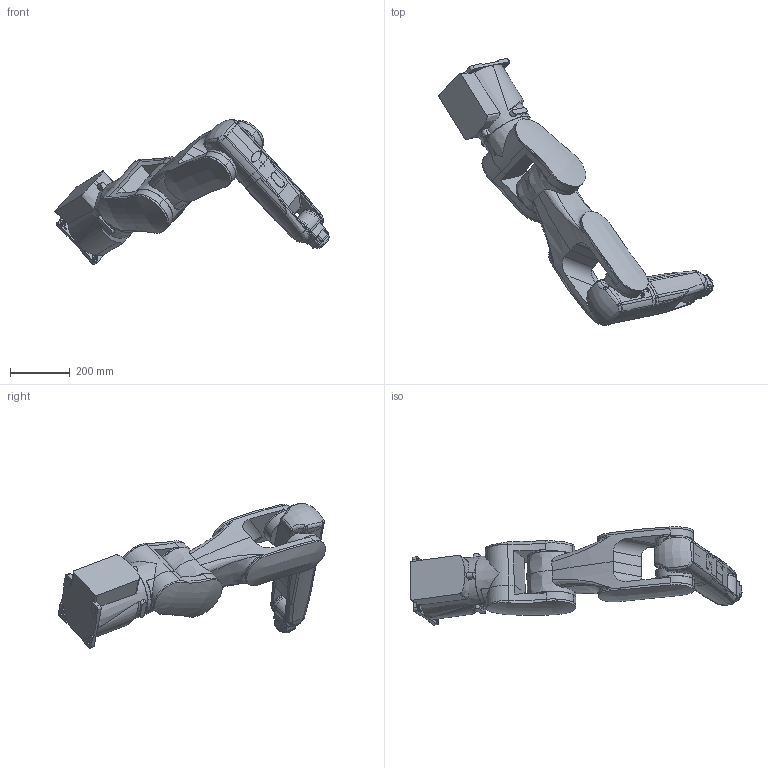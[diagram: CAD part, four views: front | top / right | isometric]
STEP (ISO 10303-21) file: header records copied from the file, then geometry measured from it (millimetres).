
FILE_DESCRIPTION (( 'STEP AP203' ), '1' );
FILE_NAME ('HH8.STEP', '2020-06-15T01:31:36', ( 'fulluser' ), ( '' ), 'SwSTEP 2.0', 'SolidWorks 2017', '' );
FILE_SCHEMA (( 'CONFIG_CONTROL_DESIGN' ));
Length unit declared in the file: millimetre
Products named in the file (8): lower frame; mechanical interfarce; base frame; wrist body; HH8; upper frame; wrist holder; arm frame
Assembly tree (7 placements, depth 2):
  HH8
    arm frame
    lower frame
    mechanical interfarce
    upper frame
    wrist body
    wrist holder
    base frame
Bounding box: 916.94 x 893.3 x 483.24 mm (x, y, z)
Volume: 27439725.3 mm3; surface area: 2109380.1 mm2
Topology: 23 solids, 42 shells, 1334 faces, 3263 edges, 2070 vertices
Faces by surface type: cylinder 560, plane 440, cone 176, bspline 146, torus 12
Entity records: 53822 total; most frequent: CARTESIAN_POINT 22158, DIRECTION 6490, ORIENTED_EDGE 6374, EDGE_CURVE 3187, AXIS2_PLACEMENT_3D 2583, VERTEX_POINT 2070, EDGE_LOOP 1531, CIRCLE 1385
